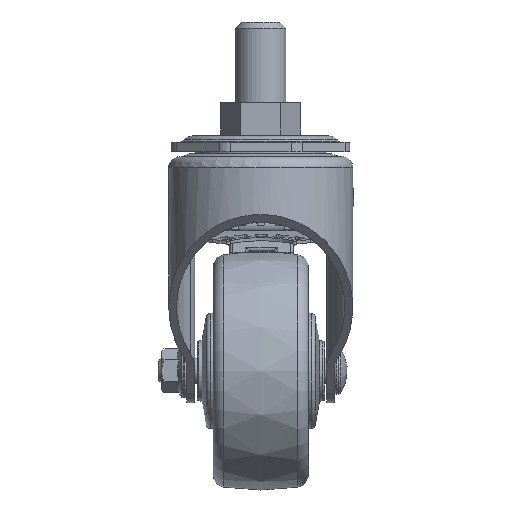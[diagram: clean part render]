
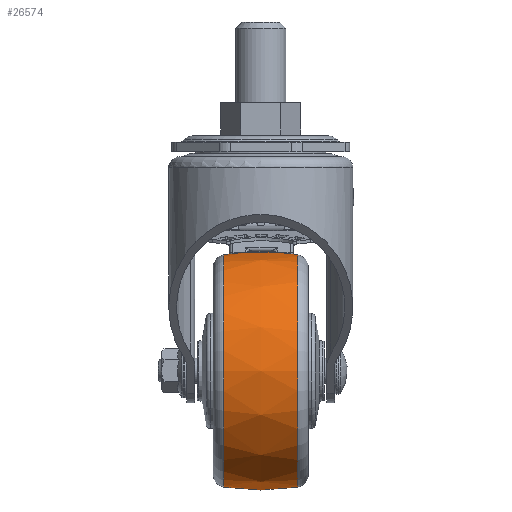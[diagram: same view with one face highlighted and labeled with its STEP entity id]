
A CAD part, left-side view. The second image highlights one B-rep face of the part: STEP entity #26574.
In plain terms, the highlighted free-form (B-spline) face has degree [2, 2] with [3, 9] control points.
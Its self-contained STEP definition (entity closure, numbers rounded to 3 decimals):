
#59=(
BOUNDED_CURVE()
B_SPLINE_CURVE(2,(#48917,#48918,#48919),.UNSPECIFIED.,.F.,.F.)
B_SPLINE_CURVE_WITH_KNOTS((3,3),(-0.156,0.156),
 .UNSPECIFIED.)
CURVE()
GEOMETRIC_REPRESENTATION_ITEM()
RATIONAL_B_SPLINE_CURVE((1.,0.988,1.))
REPRESENTATION_ITEM('')
);
#340=(
BOUNDED_SURFACE()
B_SPLINE_SURFACE(2,2,((#48886,#48887,#48888,#48889,#48890,#48891,#48892,
#48893,#48894),(#48895,#48896,#48897,#48898,#48899,#48900,#48901,#48902,
#48903),(#48904,#48905,#48906,#48907,#48908,#48909,#48910,#48911,#48912)),
 .UNSPECIFIED.,.F.,.T.,.F.)
B_SPLINE_SURFACE_WITH_KNOTS((3,3),(3,2,2,2,3),(-0.156,0.156),
(-3.142,-1.571,0.,1.571,3.142),
 .UNSPECIFIED.)
GEOMETRIC_REPRESENTATION_ITEM()
RATIONAL_B_SPLINE_SURFACE(((1.,0.707,1.,0.707,1.,
0.707,1.,0.707,1.),(0.988,0.699,
0.988,0.699,0.988,0.699,0.988,
0.699,0.988),(1.,0.707,1.,0.707,
1.,0.707,1.,0.707,1.)))
REPRESENTATION_ITEM('')
SURFACE()
);
#5992=FACE_OUTER_BOUND('',#7685,.T.);
#7685=EDGE_LOOP('',(#20950,#20951,#20952,#20953,#20954,#20955));
#9629=CIRCLE('',#29360,3.659);
#9630=CIRCLE('',#29361,3.659);
#9631=CIRCLE('',#29362,3.659);
#9632=CIRCLE('',#29363,3.659);
#11617=VERTEX_POINT('',#48882);
#11618=VERTEX_POINT('',#48883);
#11619=VERTEX_POINT('',#48913);
#11620=VERTEX_POINT('',#48914);
#14853=EDGE_CURVE('',#11617,#11618,#9629,.T.);
#14854=EDGE_CURVE('',#11618,#11617,#9630,.T.);
#14855=EDGE_CURVE('',#11619,#11620,#9631,.T.);
#14856=EDGE_CURVE('',#11620,#11619,#9632,.T.);
#14857=EDGE_CURVE('',#11620,#11618,#59,.T.);
#20950=ORIENTED_EDGE('',*,*,#14855,.F.);
#20951=ORIENTED_EDGE('',*,*,#14856,.F.);
#20952=ORIENTED_EDGE('',*,*,#14857,.T.);
#20953=ORIENTED_EDGE('',*,*,#14854,.T.);
#20954=ORIENTED_EDGE('',*,*,#14853,.T.);
#20955=ORIENTED_EDGE('',*,*,#14857,.F.);
#26574=ADVANCED_FACE('',(#5992),#340,.F.);
#29360=AXIS2_PLACEMENT_3D('',#48884,#35899,#35900);
#29361=AXIS2_PLACEMENT_3D('',#48885,#35901,#35902);
#29362=AXIS2_PLACEMENT_3D('',#48915,#35903,#35904);
#29363=AXIS2_PLACEMENT_3D('',#48916,#35905,#35906);
#35899=DIRECTION('center_axis',(0.,1.,0.));
#35900=DIRECTION('ref_axis',(0.,0.,-1.));
#35901=DIRECTION('center_axis',(0.,1.,0.));
#35902=DIRECTION('ref_axis',(0.,0.,-1.));
#35903=DIRECTION('center_axis',(0.,1.,0.));
#35904=DIRECTION('ref_axis',(0.,0.,-1.));
#35905=DIRECTION('center_axis',(0.,1.,0.));
#35906=DIRECTION('ref_axis',(0.,0.,-1.));
#48882=CARTESIAN_POINT('',(-1.722,5.005,-6.925));
#48883=CARTESIAN_POINT('',(1.937,5.005,-3.266));
#48884=CARTESIAN_POINT('Origin',(1.937,5.005,-6.925));
#48885=CARTESIAN_POINT('Origin',(1.937,5.005,-6.925));
#48886=CARTESIAN_POINT('Ctrl Pts',(1.937,5.005,-3.266));
#48887=CARTESIAN_POINT('Ctrl Pts',(5.596,5.005,-3.266));
#48888=CARTESIAN_POINT('Ctrl Pts',(5.596,5.005,-6.925));
#48889=CARTESIAN_POINT('Ctrl Pts',(5.596,5.005,-10.584));
#48890=CARTESIAN_POINT('Ctrl Pts',(1.937,5.005,-10.584));
#48891=CARTESIAN_POINT('Ctrl Pts',(-1.722,5.005,-10.584));
#48892=CARTESIAN_POINT('Ctrl Pts',(-1.722,5.005,-6.925));
#48893=CARTESIAN_POINT('Ctrl Pts',(-1.722,5.005,-3.266));
#48894=CARTESIAN_POINT('Ctrl Pts',(1.937,5.005,-3.266));
#48895=CARTESIAN_POINT('Ctrl Pts',(1.937,6.167,-3.083));
#48896=CARTESIAN_POINT('Ctrl Pts',(5.779,6.167,-3.083));
#48897=CARTESIAN_POINT('Ctrl Pts',(5.779,6.167,-6.925));
#48898=CARTESIAN_POINT('Ctrl Pts',(5.779,6.167,-10.767));
#48899=CARTESIAN_POINT('Ctrl Pts',(1.937,6.167,-10.767));
#48900=CARTESIAN_POINT('Ctrl Pts',(-1.905,6.167,-10.767));
#48901=CARTESIAN_POINT('Ctrl Pts',(-1.905,6.167,-6.925));
#48902=CARTESIAN_POINT('Ctrl Pts',(-1.905,6.167,-3.083));
#48903=CARTESIAN_POINT('Ctrl Pts',(1.937,6.167,-3.083));
#48904=CARTESIAN_POINT('Ctrl Pts',(1.937,7.329,-3.266));
#48905=CARTESIAN_POINT('Ctrl Pts',(5.596,7.329,-3.266));
#48906=CARTESIAN_POINT('Ctrl Pts',(5.596,7.329,-6.925));
#48907=CARTESIAN_POINT('Ctrl Pts',(5.596,7.329,-10.584));
#48908=CARTESIAN_POINT('Ctrl Pts',(1.937,7.329,-10.584));
#48909=CARTESIAN_POINT('Ctrl Pts',(-1.722,7.329,-10.584));
#48910=CARTESIAN_POINT('Ctrl Pts',(-1.722,7.329,-6.925));
#48911=CARTESIAN_POINT('Ctrl Pts',(-1.722,7.329,-3.266));
#48912=CARTESIAN_POINT('Ctrl Pts',(1.937,7.329,-3.266));
#48913=CARTESIAN_POINT('',(-1.722,7.329,-6.925));
#48914=CARTESIAN_POINT('',(1.937,7.329,-3.266));
#48915=CARTESIAN_POINT('Origin',(1.937,7.329,-6.925));
#48916=CARTESIAN_POINT('Origin',(1.937,7.329,-6.925));
#48917=CARTESIAN_POINT('Ctrl Pts',(1.937,7.329,-3.266));
#48918=CARTESIAN_POINT('Ctrl Pts',(1.937,6.167,-3.083));
#48919=CARTESIAN_POINT('Ctrl Pts',(1.937,5.005,-3.266));
